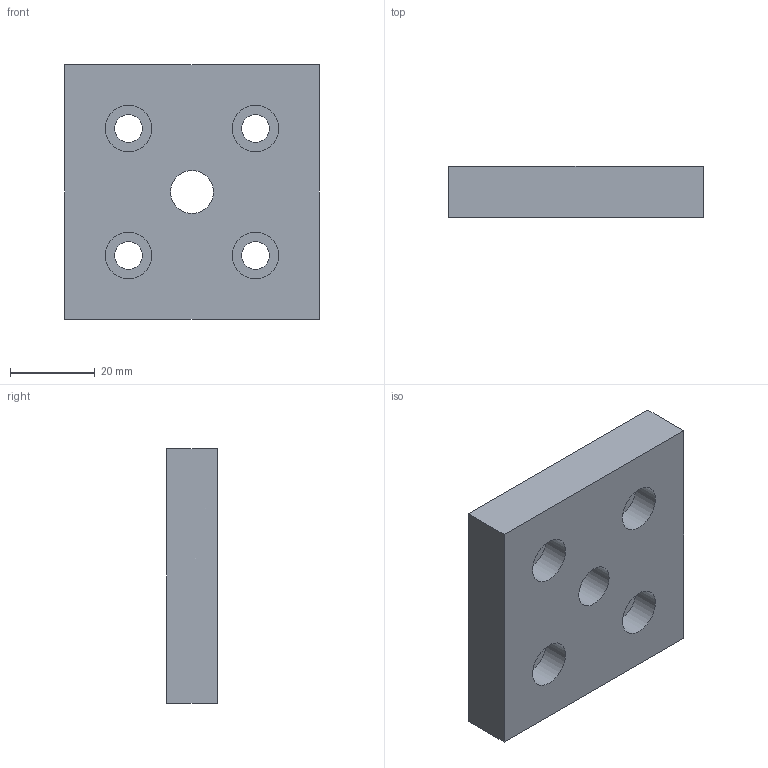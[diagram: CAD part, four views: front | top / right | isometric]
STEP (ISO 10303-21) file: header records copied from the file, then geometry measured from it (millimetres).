
FILE_DESCRIPTION(/* description */ ('Unknown'),/* implementation_level */ '2;1');
FILE_NAME(/* name */ 'FTB6060M12',/* time_stamp */ '2026-09-30T09:02:25+08:00',/* author */ ('Unknown'),/* organization */ ('Unknown'),/* preprocessor_version */ 'ST-DEVELOPER v16.7',/* originating_system */ 'DEX',/* authorisation */ $);
FILE_SCHEMA (('AUTOMOTIVE_DESIGN {1 0 10303 214 3 1 1}'));
Length unit declared in the file: millimetre
Products named in the file (1): FTB6060
Bounding box: 60 x 12 x 60 mm (x, y, z)
Volume: 39036.5 mm3; surface area: 11382.8 mm2
Topology: 1 solids, 1 shells, 19 faces, 44 edges, 31 vertices
Faces by surface type: plane 10, cylinder 9
Full cylindrical faces by diameter (mm): 6.5 x4, 10.106 x1, 11 x4
Entity records: 643 total; most frequent: DIRECTION 88, CARTESIAN_POINT 76, ORIENTED_EDGE 60, EDGE_LOOP 42, FACE_BOUND 42, AXIS2_PLACEMENT_3D 38, EDGE_CURVE 30, VERTEX_POINT 26
